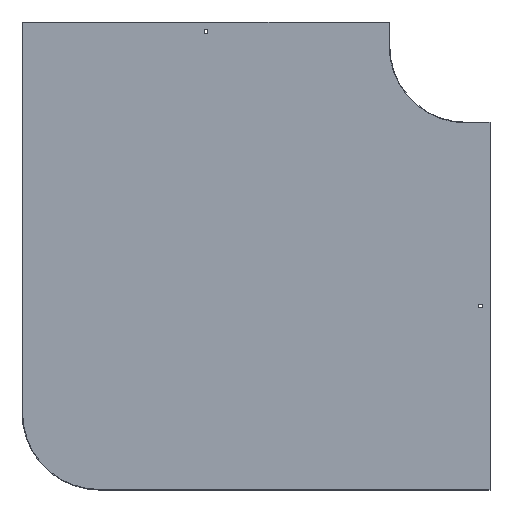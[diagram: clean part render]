
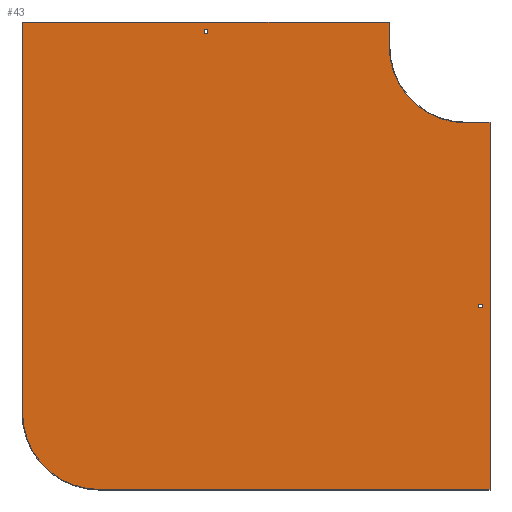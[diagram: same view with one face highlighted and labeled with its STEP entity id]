
A CAD part, front view. The second image highlights one B-rep face of the part: STEP entity #43.
In plain terms, the highlighted planar face has unit normal (0, -1, 0).
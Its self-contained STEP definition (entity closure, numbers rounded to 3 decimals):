
#12 = VECTOR ( 'NONE', #621, 1000. ) ;
#16 = EDGE_CURVE ( 'NONE', #791, #610, #623, .T. ) ;
#17 = FACE_BOUND ( 'NONE', #644, .T. ) ;
#19 = DIRECTION ( 'NONE',  ( 0., 0., -1. ) ) ;
#25 = CIRCLE ( 'NONE', #548, 125. ) ;
#30 = DIRECTION ( 'NONE',  ( 0., 0., -1. ) ) ;
#43 = ADVANCED_FACE ( 'NONE', ( #17, #98, #287 ), #687, .T. ) ;
#53 = CARTESIAN_POINT ( 'NONE',  ( 21.5, -1., 0. ) ) ;
#58 = EDGE_CURVE ( 'NONE', #144, #260, #488, .T. ) ;
#63 = VERTEX_POINT ( 'NONE', #817 ) ;
#71 = VECTOR ( 'NONE', #826, 1000. ) ;
#85 = VECTOR ( 'NONE', #279, 1000. ) ;
#98 = FACE_OUTER_BOUND ( 'NONE', #588, .T. ) ;
#108 = CARTESIAN_POINT ( 'NONE',  ( -428., -1., 21.5 ) ) ;
#111 = VECTOR ( 'NONE', #30, 1000. ) ;
#116 = EDGE_CURVE ( 'NONE', #594, #451, #427, .T. ) ;
#117 = DIRECTION ( 'NONE',  ( 0., 0., -1. ) ) ;
#122 = EDGE_CURVE ( 'NONE', #63, #585, #694, .T. ) ;
#124 = VERTEX_POINT ( 'NONE', #365 ) ;
#126 = CARTESIAN_POINT ( 'NONE',  ( 21.5, -1., -422. ) ) ;
#132 = ORIENTED_EDGE ( 'NONE', *, *, #364, .F. ) ;
#133 = DIRECTION ( 'NONE',  ( 0., 0., -1. ) ) ;
#137 = CARTESIAN_POINT ( 'NONE',  ( 0., -1., 0. ) ) ;
#144 = VERTEX_POINT ( 'NONE', #311 ) ;
#145 = VECTOR ( 'NONE', #642, 1000. ) ;
#152 = CARTESIAN_POINT ( 'NONE',  ( -428., -1., 0. ) ) ;
#157 = VECTOR ( 'NONE', #117, 1000. ) ;
#171 = CARTESIAN_POINT ( 'NONE',  ( 0., -1., 21.5 ) ) ;
#174 = EDGE_CURVE ( 'NONE', #531, #860, #766, .T. ) ;
#175 = AXIS2_PLACEMENT_3D ( 'NONE', #359, #218, #216 ) ;
#184 = CARTESIAN_POINT ( 'NONE',  ( -600., -1., -600. ) ) ;
#185 = ORIENTED_EDGE ( 'NONE', *, *, #590, .F. ) ;
#189 = VERTEX_POINT ( 'NONE', #446 ) ;
#193 = DIRECTION ( 'NONE',  ( 0., 0., -1. ) ) ;
#198 = ORIENTED_EDGE ( 'NONE', *, *, #688, .F. ) ;
#201 = DIRECTION ( 'NONE',  ( 0., 1., 0. ) ) ;
#205 = CARTESIAN_POINT ( 'NONE',  ( -725., -1., -600. ) ) ;
#215 = DIRECTION ( 'NONE',  ( 0., 0., 1. ) ) ;
#216 = DIRECTION ( 'NONE',  ( 0., 0., -1. ) ) ;
#218 = DIRECTION ( 'NONE',  ( 0., -1., 0. ) ) ;
#223 = CARTESIAN_POINT ( 'NONE',  ( -422., -1., 0. ) ) ;
#224 = EDGE_CURVE ( 'NONE', #268, #189, #570, .T. ) ;
#240 = EDGE_CURVE ( 'NONE', #257, #531, #738, .T. ) ;
#257 = VERTEX_POINT ( 'NONE', #593 ) ;
#260 = VERTEX_POINT ( 'NONE', #844 ) ;
#262 = VECTOR ( 'NONE', #487, 1000. ) ;
#268 = VERTEX_POINT ( 'NONE', #714 ) ;
#273 = ORIENTED_EDGE ( 'NONE', *, *, #224, .F. ) ;
#278 = VECTOR ( 'NONE', #711, 1000. ) ;
#279 = DIRECTION ( 'NONE',  ( 1., 0., 0. ) ) ;
#287 = FACE_BOUND ( 'NONE', #415, .T. ) ;
#291 = CARTESIAN_POINT ( 'NONE',  ( -125., -1., 0. ) ) ;
#306 = VECTOR ( 'NONE', #596, 1000. ) ;
#308 = CARTESIAN_POINT ( 'NONE',  ( -125., -1., 40. ) ) ;
#311 = CARTESIAN_POINT ( 'NONE',  ( 0., -1., -125. ) ) ;
#316 = LINE ( 'NONE', #205, #763 ) ;
#319 = DIRECTION ( 'NONE',  ( 1., 0., 0. ) ) ;
#322 = LINE ( 'NONE', #726, #306 ) ;
#344 = EDGE_CURVE ( 'NONE', #467, #594, #421, .T. ) ;
#348 = CARTESIAN_POINT ( 'NONE',  ( 28.5, -1., 0. ) ) ;
#349 = ORIENTED_EDGE ( 'NONE', *, *, #240, .F. ) ;
#353 = LINE ( 'NONE', #683, #682 ) ;
#358 = EDGE_CURVE ( 'NONE', #451, #124, #686, .T. ) ;
#359 = CARTESIAN_POINT ( 'NONE',  ( 0., -1., 0. ) ) ;
#364 = EDGE_CURVE ( 'NONE', #585, #791, #411, .T. ) ;
#365 = CARTESIAN_POINT ( 'NONE',  ( -428., -1., 28.5 ) ) ;
#374 = CARTESIAN_POINT ( 'NONE',  ( 0., -1., -428. ) ) ;
#388 = CARTESIAN_POINT ( 'NONE',  ( -726., -1., 40. ) ) ;
#392 = ORIENTED_EDGE ( 'NONE', *, *, #579, .T. ) ;
#402 = CARTESIAN_POINT ( 'NONE',  ( 40., -1., -725. ) ) ;
#407 = EDGE_CURVE ( 'NONE', #260, #611, #353, .T. ) ;
#411 = LINE ( 'NONE', #348, #751 ) ;
#415 = EDGE_LOOP ( 'NONE', ( #392, #595, #617, #528 ) ) ;
#421 = LINE ( 'NONE', #223, #846 ) ;
#427 = LINE ( 'NONE', #171, #278 ) ;
#432 = CARTESIAN_POINT ( 'NONE',  ( -422., -1., 28.5 ) ) ;
#446 = CARTESIAN_POINT ( 'NONE',  ( -725., -1., -600. ) ) ;
#451 = VERTEX_POINT ( 'NONE', #108 ) ;
#453 = ORIENTED_EDGE ( 'NONE', *, *, #805, .F. ) ;
#455 = ORIENTED_EDGE ( 'NONE', *, *, #16, .F. ) ;
#467 = VERTEX_POINT ( 'NONE', #432 ) ;
#479 = VECTOR ( 'NONE', #319, 1000. ) ;
#487 = DIRECTION ( 'NONE',  ( 0., 0., 1. ) ) ;
#488 = LINE ( 'NONE', #750, #85 ) ;
#528 = ORIENTED_EDGE ( 'NONE', *, *, #358, .T. ) ;
#531 = VERTEX_POINT ( 'NONE', #760 ) ;
#546 = ORIENTED_EDGE ( 'NONE', *, *, #637, .F. ) ;
#548 = AXIS2_PLACEMENT_3D ( 'NONE', #137, #852, #133 ) ;
#560 = CARTESIAN_POINT ( 'NONE',  ( 28.5, -1., -422. ) ) ;
#566 = LINE ( 'NONE', #402, #71 ) ;
#570 = CIRCLE ( 'NONE', #774, 125. ) ;
#579 = EDGE_CURVE ( 'NONE', #124, #467, #322, .T. ) ;
#585 = VERTEX_POINT ( 'NONE', #717 ) ;
#588 = EDGE_LOOP ( 'NONE', ( #349, #198, #273, #453, #715, #599, #185, #718 ) ) ;
#590 = EDGE_CURVE ( 'NONE', #860, #144, #25, .T. ) ;
#591 = CARTESIAN_POINT ( 'NONE',  ( 40., -1., -725. ) ) ;
#593 = CARTESIAN_POINT ( 'NONE',  ( -725., -1., 40. ) ) ;
#594 = VERTEX_POINT ( 'NONE', #601 ) ;
#595 = ORIENTED_EDGE ( 'NONE', *, *, #344, .T. ) ;
#596 = DIRECTION ( 'NONE',  ( 1., 0., 0. ) ) ;
#599 = ORIENTED_EDGE ( 'NONE', *, *, #58, .F. ) ;
#601 = CARTESIAN_POINT ( 'NONE',  ( -422., -1., 21.5 ) ) ;
#605 = ORIENTED_EDGE ( 'NONE', *, *, #122, .F. ) ;
#610 = VERTEX_POINT ( 'NONE', #126 ) ;
#611 = VERTEX_POINT ( 'NONE', #591 ) ;
#613 = DIRECTION ( 'NONE',  ( 0., 0., -1. ) ) ;
#614 = CARTESIAN_POINT ( 'NONE',  ( 0., -1., -422. ) ) ;
#617 = ORIENTED_EDGE ( 'NONE', *, *, #116, .T. ) ;
#621 = DIRECTION ( 'NONE',  ( -1., 0., 0. ) ) ;
#623 = LINE ( 'NONE', #614, #12 ) ;
#637 = EDGE_CURVE ( 'NONE', #610, #63, #643, .T. ) ;
#642 = DIRECTION ( 'NONE',  ( 1., 0., 0. ) ) ;
#643 = LINE ( 'NONE', #53, #157 ) ;
#644 = EDGE_LOOP ( 'NONE', ( #455, #132, #605, #546 ) ) ;
#682 = VECTOR ( 'NONE', #613, 1000. ) ;
#683 = CARTESIAN_POINT ( 'NONE',  ( 40., -1., -124. ) ) ;
#686 = LINE ( 'NONE', #152, #262 ) ;
#687 = PLANE ( 'NONE',  #175 ) ;
#688 = EDGE_CURVE ( 'NONE', #189, #257, #316, .T. ) ;
#694 = LINE ( 'NONE', #374, #145 ) ;
#711 = DIRECTION ( 'NONE',  ( -1., 0., 0. ) ) ;
#714 = CARTESIAN_POINT ( 'NONE',  ( -600., -1., -725. ) ) ;
#715 = ORIENTED_EDGE ( 'NONE', *, *, #407, .F. ) ;
#717 = CARTESIAN_POINT ( 'NONE',  ( 28.5, -1., -428. ) ) ;
#718 = ORIENTED_EDGE ( 'NONE', *, *, #174, .F. ) ;
#726 = CARTESIAN_POINT ( 'NONE',  ( 0., -1., 28.5 ) ) ;
#738 = LINE ( 'NONE', #388, #479 ) ;
#750 = CARTESIAN_POINT ( 'NONE',  ( 0., -1., -125. ) ) ;
#751 = VECTOR ( 'NONE', #215, 1000. ) ;
#760 = CARTESIAN_POINT ( 'NONE',  ( -125., -1., 40. ) ) ;
#763 = VECTOR ( 'NONE', #790, 1000. ) ;
#766 = LINE ( 'NONE', #308, #111 ) ;
#774 = AXIS2_PLACEMENT_3D ( 'NONE', #184, #201, #193 ) ;
#790 = DIRECTION ( 'NONE',  ( 0., 0., 1. ) ) ;
#791 = VERTEX_POINT ( 'NONE', #560 ) ;
#805 = EDGE_CURVE ( 'NONE', #611, #268, #566, .T. ) ;
#817 = CARTESIAN_POINT ( 'NONE',  ( 21.5, -1., -428. ) ) ;
#826 = DIRECTION ( 'NONE',  ( -1., 0., 0. ) ) ;
#844 = CARTESIAN_POINT ( 'NONE',  ( 40., -1., -125. ) ) ;
#846 = VECTOR ( 'NONE', #19, 1000. ) ;
#852 = DIRECTION ( 'NONE',  ( 0., -1., 0. ) ) ;
#860 = VERTEX_POINT ( 'NONE', #291 ) ;
